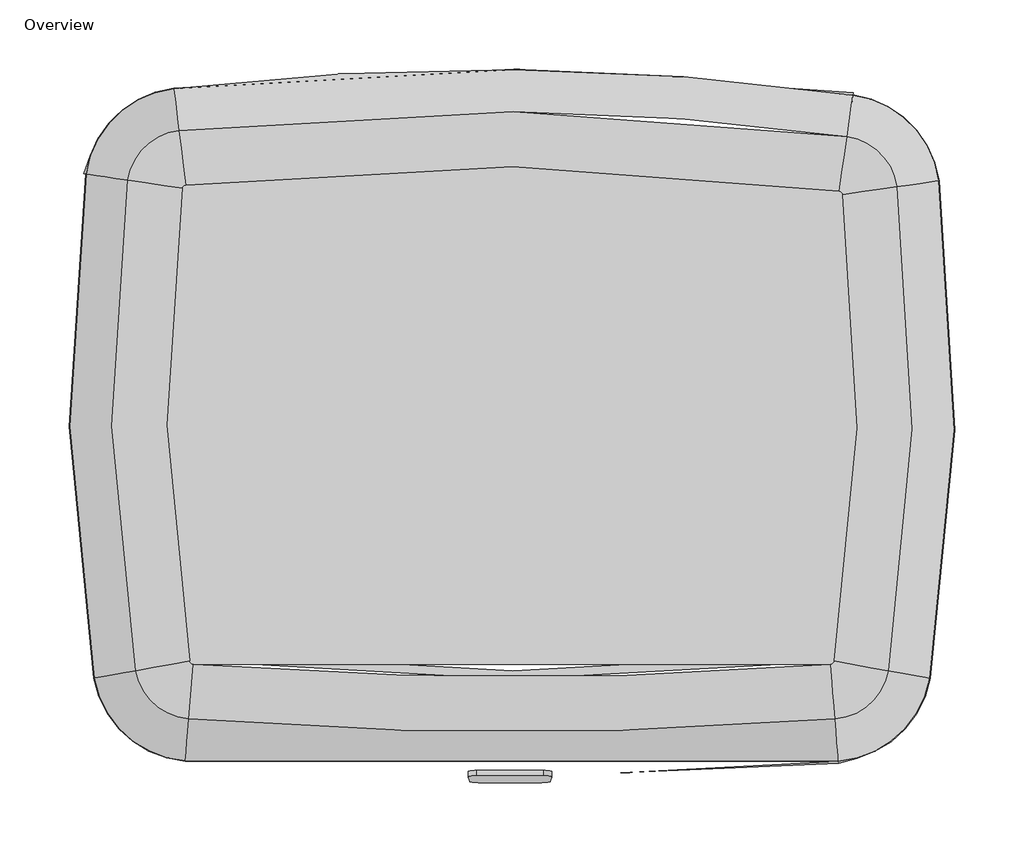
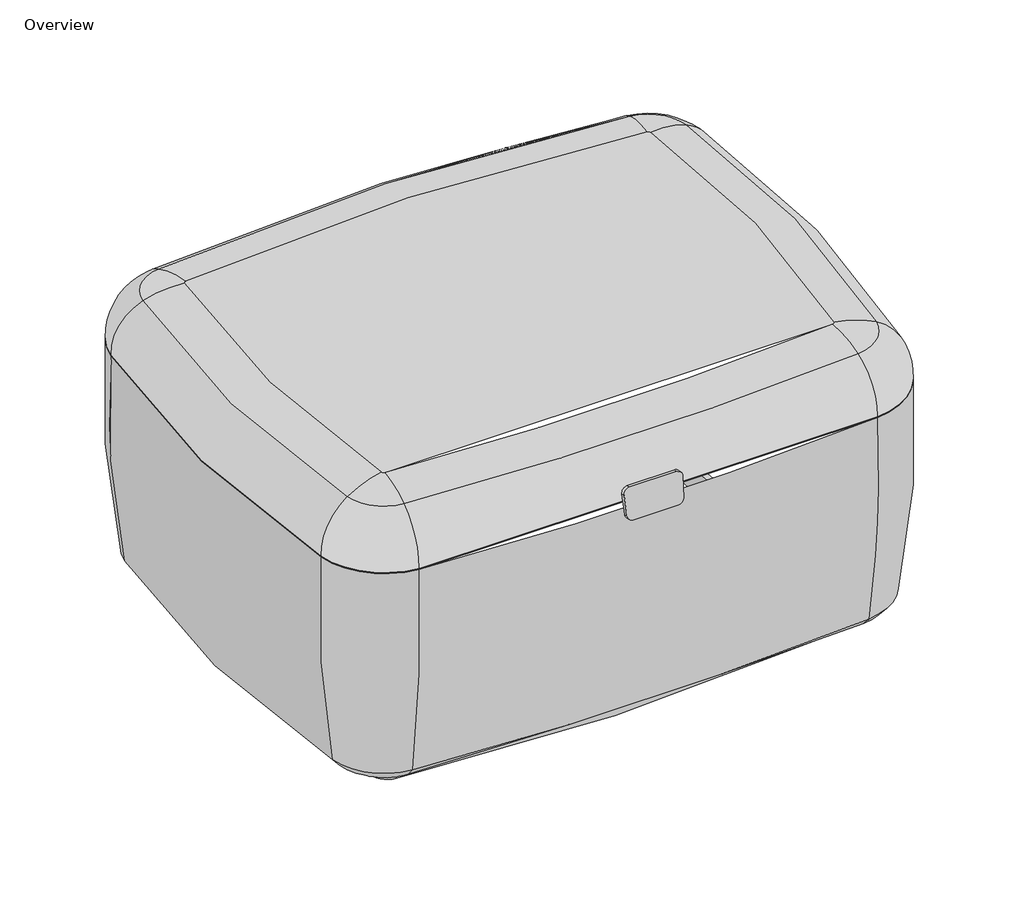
# One storey, incomplete: 1 furniture element.
"""IFC4 building model written with IfcOpenShell, lengths in millimetres."""

from ifc_helpers import new_model, si_unit, origin, place, context, project, spatial, transform, mapped, element, save
from components import ottoman_db271298

model = new_model("IFC4")

# Units and contexts
model_context = context("Model", 3, world=origin())
ifc_project = project(units=[si_unit("LENGTHUNIT", "METRE", prefix="MILLI")], contexts=[model_context])

# Site, building, storey
site = spatial("IfcSite", under=ifc_project)
building = spatial("IfcBuilding", under=site)
storey = spatial("IfcBuildingStorey", under=building, Name="Overview", Elevation=0.0)

# Furniture
placement = place(None, origin())
ottoman_shape = ottoman_db271298(model_context)
element("IfcFurniture", 1, ObjectType="Coalesse_AM_Seating_Ottoman_Massaud : Ottoman", at=placement, inside=storey, context=model_context, shape_type="MappedRepresentation", body=[
    mapped(ottoman_shape, transform((771725.7766429, 4270.7141353, 0.0), x_axis=(1.0, 0.0, 0.0), y_axis=(0.0, 1.0, 0.0), z_axis=(0.0, 0.0, 1.0))),
])

save(model, "model.ifc")
